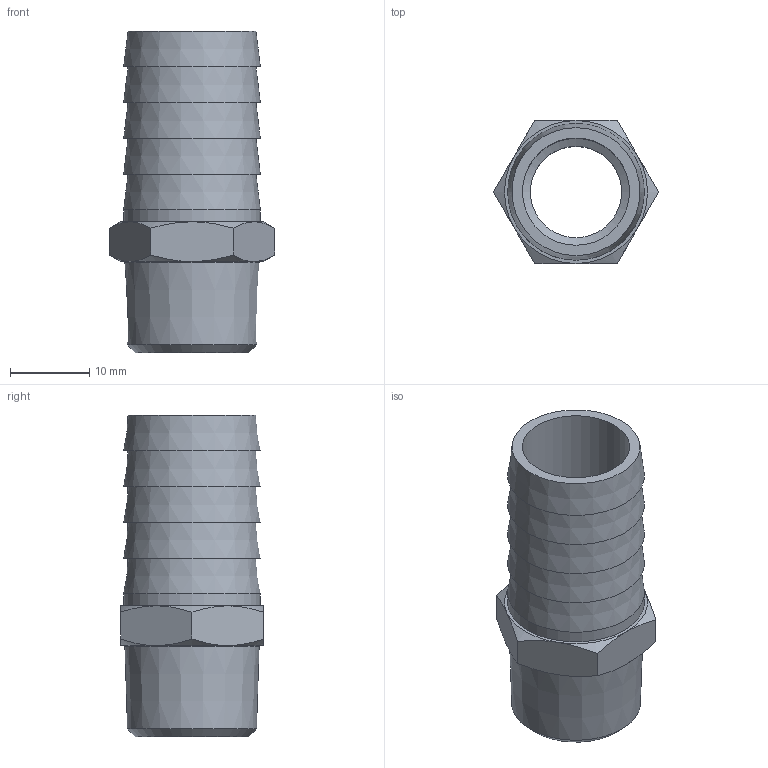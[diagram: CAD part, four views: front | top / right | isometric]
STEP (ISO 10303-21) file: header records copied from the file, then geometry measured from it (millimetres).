
FILE_DESCRIPTION(/* description */ (''),/* implementation_level */ '2;1');
FILE_NAME(/* name */ '30424_119_17_R38_22.11.16',/* time_stamp */ '2016-11-22T11:30:25+01:00',/* author */ (''),/* organization */ (''),/* preprocessor_version */ 'ST-DEVELOPER v16.5',/* originating_system */ 'HiCAD 2016 2102.0 Build 402',/* authorisation */ '');
FILE_SCHEMA (('AUTOMOTIVE_DESIGN { 1 0 10303 214 1 1 1 1 }'));
Length unit declared in the file: millimetre
Products named in the file (2): Root; ROTATIONSTEIL_0
Assembly tree (1 placements, depth 2):
  Root
    ROTATIONSTEIL_0
Bounding box: 20.78 x 18 x 40.5 mm (x, y, z)
Volume: 3812.2 mm3; surface area: 4159.3 mm2
Topology: 1 solids, 1 shells, 38 faces, 74 edges, 45 vertices
Faces by surface type: cone 20, plane 14, cylinder 4
Full cylindrical faces by diameter (mm): 11.5 x1, 13.5 x1, 16.893 x1, 17.2 x1
Entity records: 1568 total; most frequent: DIRECTION 196, CARTESIAN_POINT 145, PRESENTATION_STYLE_ASSIGNMENT 123, COLOUR_RGB 123, DRAUGHTING_PRE_DEFINED_CURVE_FONT 122, CURVE_STYLE 122, OVER_RIDING_STYLED_ITEM 122, ORIENTED_EDGE 122
